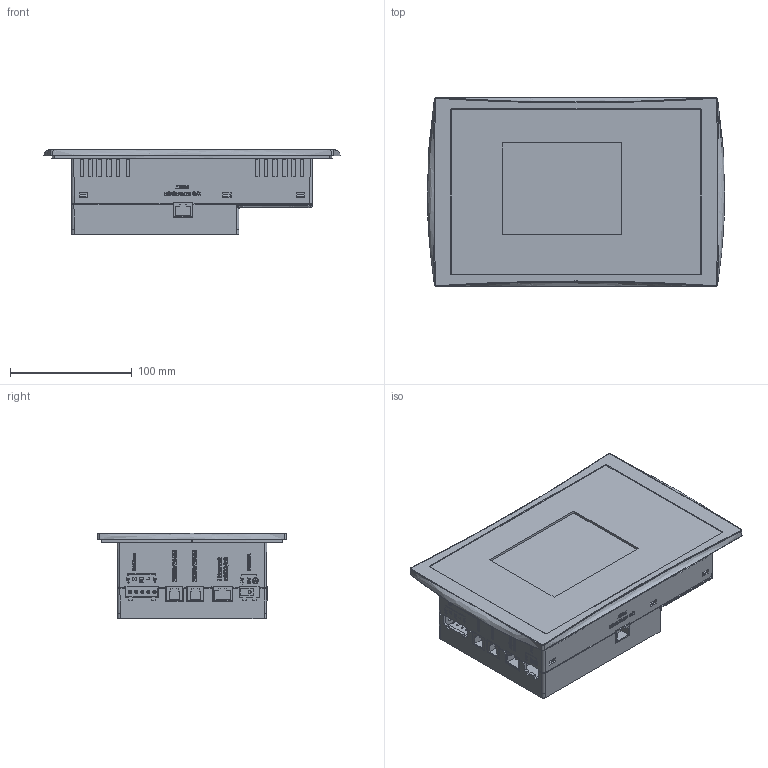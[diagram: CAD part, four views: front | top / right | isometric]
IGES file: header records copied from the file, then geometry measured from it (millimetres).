
Start section: SolidWorks IGES file using analytic representation for surfaces
Global section: file name: Z:\Products\V230_260_280_290_500\Mechanic\V280\CAD Files\3D Files\V280-18-B20B.IGS; native system: SolidWorks 2011; preprocessor: SolidWorks 2011; author: baraki; date: 120628.103443; units: millimetre
Bounding box: 244 x 155 x 70.42 mm (x, y, z)
Surface area: 218526.2 mm2 (no closed solid volume)
Topology: 0 solids, 0 shells, 2349 faces, 23427 edges, 23419 vertices
Faces by surface type: bspline 2179, revolution 170
